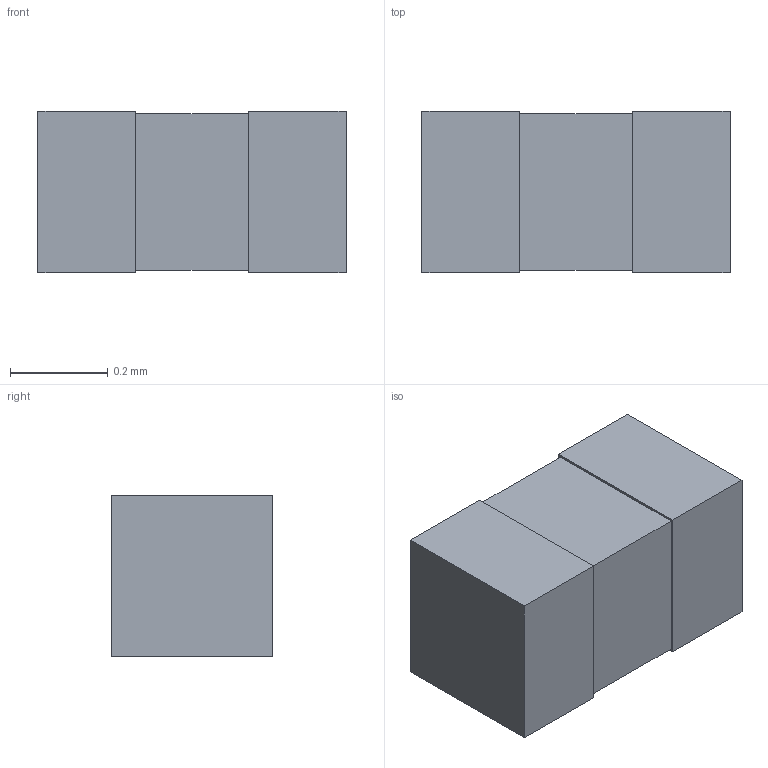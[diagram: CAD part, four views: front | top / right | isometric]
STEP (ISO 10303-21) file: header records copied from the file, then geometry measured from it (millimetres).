
FILE_DESCRIPTION(('STEP AP214'),'1');
FILE_NAME('CAPC6333_33N_KEM','2021-09-10T02:22:01',(''),(''),'','','');
FILE_SCHEMA(('AUTOMOTIVE_DESIGN'));
Length unit declared in the file: millimetre
Products named in the file (1): product
Bounding box: 0.63 x 0.33 x 0.33 mm (x, y, z)
Volume: 0.1 mm3; surface area: 1.5 mm2
Topology: 3 solids, 3 shells, 18 faces, 36 edges, 24 vertices
Faces by surface type: plane 18
Entity records: 489 total; most frequent: DIRECTION 74, ORIENTED_EDGE 72, CARTESIAN_POINT 43, EDGE_CURVE 36, LINE 36, VECTOR 36, VERTEX_POINT 24, AXIS2_PLACEMENT_3D 19
